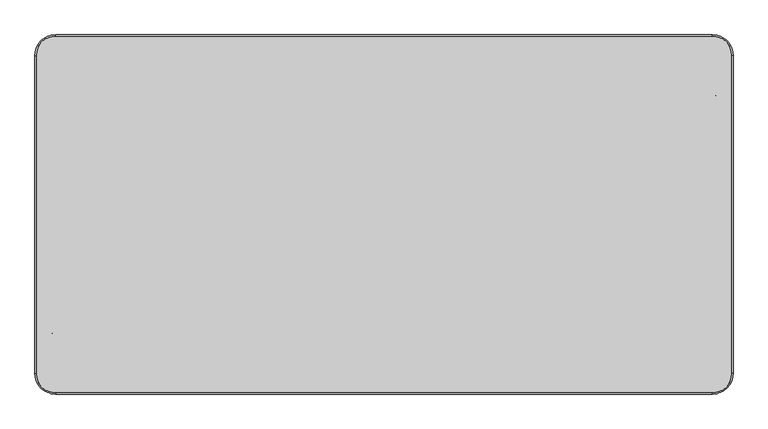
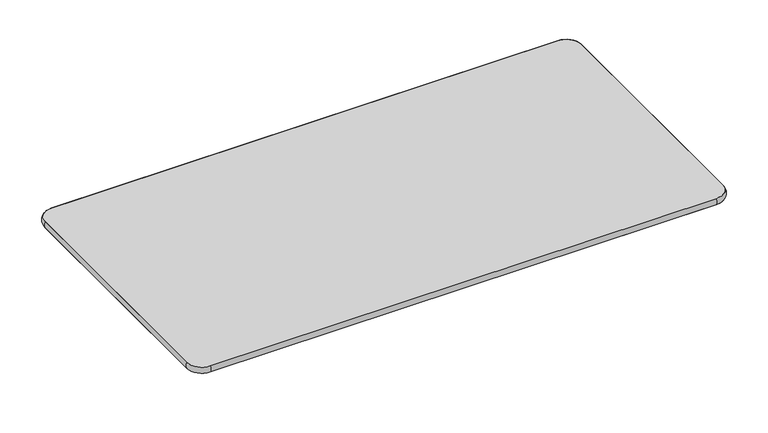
"""IFC4 building model written with IfcOpenShell, lengths in millimetres: furniture geometry, Mesa para refeitório : Mesa para refeitório 150x77cm cód 70474.6."""

import ifcopenshell
import ifcopenshell.guid

model = None  # the IFC model being written
_history = None  # IfcOwnerHistory: only IFC2X3 demands one
_inside = {}  # id of a spatial element -> (the spatial element, [elements in it])
_under = {}  # id of a project, library or spatial element -> (it, [spatial elements below it])
_declared = {}  # id of a project -> (the project, [libraries it declares])
_typed = {}  # id of a type object -> (the type object, [elements of that type])
_made_of = {}  # id of a material, layer set ... -> (it, [elements and type objects made of it])


def new_model(schema):
    """Start an empty IFC model of exactly this schema.

    Asked for "IFC4X3", IfcOpenShell would pick the latest addendum, in which some entities
    have other attributes; the version numbers below select the first issue.
    IFC2X3 requires an IfcOwnerHistory on every rooted entity: one is made here for all.
    """
    global model, _history
    if schema == "IFC4X3":
        model = ifcopenshell.file(schema_version=(4, 3, 0, 0))
    else:
        model = ifcopenshell.file(schema=schema)
    _inside.clear()
    _under.clear()
    _declared.clear()
    _typed.clear()
    _made_of.clear()
    _history = None
    if model.schema == "IFC2X3":
        org = make("IfcOrganization", Name="unknown")
        user = make(
            "IfcPersonAndOrganization",
            ThePerson=make("IfcPerson", FamilyName="unknown"),
            TheOrganization=org,
        )
        app = make(
            "IfcApplication",
            ApplicationDeveloper=org,
            Version="unknown",
            ApplicationFullName="unknown",
            ApplicationIdentifier="unknown",
        )
        _history = make(
            "IfcOwnerHistory",
            OwningUser=user,
            OwningApplication=app,
            ChangeAction="ADDED",
            CreationDate=0,
        )
    return model


def make(cls, **values):
    """One entity of the class cls with the attributes given. An attribute that is None is left unset."""
    return model.create_entity(
        cls, **{name: value for name, value in values.items() if value is not None}
    )


def rooted(cls, **values):
    """An entity with a GlobalId (a new one), such as an element, a storey or a relation."""
    return make(cls, GlobalId=ifcopenshell.guid.new(), OwnerHistory=_history, **values)


def si_unit(unit_type, name, prefix=None):
    """IfcSIUnit, for example si_unit("LENGTHUNIT", "METRE", prefix="MILLI")."""
    return make("IfcSIUnit", UnitType=unit_type, Prefix=prefix, Name=name)


def assignment(units):
    """IfcUnitAssignment: the units of a project."""
    return None if units is None else make("IfcUnitAssignment", Units=units)


def point(xyz):
    """IfcCartesianPoint."""
    return None if xyz is None else make("IfcCartesianPoint", Coordinates=xyz)


def direction(xyz):
    """IfcDirection."""
    return None if xyz is None else make("IfcDirection", DirectionRatios=xyz)


def frame(location, z_axis=None, x_axis=None):
    """IfcAxis2Placement3D, a coordinate frame: its origin and axes. An axis left out is left unset."""
    return make(
        "IfcAxis2Placement3D",
        Location=point(location),
        Axis=direction(z_axis),
        RefDirection=direction(x_axis),
    )


def frame_2d(location, x_axis=None):
    """IfcAxis2Placement2D, a coordinate frame in the plane: its origin and x axis."""
    return make(
        "IfcAxis2Placement2D", Location=point(location), RefDirection=direction(x_axis)
    )


def origin():
    """The frame at (0, 0, 0) with its axes left unset."""
    return frame((0.0, 0.0, 0.0))


def place(relative_to, where):
    """IfcLocalPlacement: puts the frame where relative to a parent placement (None: the world)."""
    return make(
        "IfcLocalPlacement", PlacementRelTo=relative_to, RelativePlacement=where
    )


def context(
    kind, dimensions, precision=None, world=None, true_north=None, identifier=None
):
    """IfcGeometricRepresentationContext, for example the 3D "Model" context."""
    return make(
        "IfcGeometricRepresentationContext",
        ContextIdentifier=identifier,
        ContextType=kind,
        CoordinateSpaceDimension=dimensions,
        Precision=precision,
        WorldCoordinateSystem=world,
        TrueNorth=true_north,
    )


def project(units=None, contexts=None):
    """IfcProject with its units and contexts."""
    return rooted(
        "IfcProject",
        Name="project",
        RepresentationContexts=contexts,
        UnitsInContext=assignment(units),
    )


def spatial(cls, under=None, at=None, **own):
    """A site, building, storey or space (cls), placed at a placement, below another one or the project."""
    s = rooted(cls, ObjectPlacement=at, **own)
    if under is not None:
        _under.setdefault(under.id(), (under, []))[1].append(s)
    return s


def polyline(points):
    """IfcPolyline through the points."""
    return make("IfcPolyline", Points=[point(p) for p in points])


def circle_curve(where, radius):
    """IfcCircle in the frame where."""
    return make("IfcCircle", Position=where, Radius=radius)


def ellipse_curve(where, semi_axis1, semi_axis2):
    """IfcEllipse in the frame where."""
    return make(
        "IfcEllipse", Position=where, SemiAxis1=semi_axis1, SemiAxis2=semi_axis2
    )


def trimmed(basis, trim1, trim2, sense, master):
    """IfcTrimmedCurve: the piece of a basis curve between two trims."""
    return make(
        "IfcTrimmedCurve",
        BasisCurve=basis,
        Trim1=trim1,
        Trim2=trim2,
        SenseAgreement=sense,
        MasterRepresentation=master,
    )


def segment(curve, same_sense, transition):
    """IfcCompositeCurveSegment."""
    return make(
        "IfcCompositeCurveSegment",
        Transition=transition,
        SameSense=same_sense,
        ParentCurve=curve,
    )


def composite_curve(segments, self_intersect=None):
    """IfcCompositeCurve: segments joined end to end."""
    return make("IfcCompositeCurve", Segments=segments, SelfIntersect=self_intersect)


def outline(outer, holes=None, kind="AREA"):
    """IfcArbitraryClosedProfileDef: a profile drawn as a closed curve; with holes, ...WithVoids."""
    if holes is None:
        return make("IfcArbitraryClosedProfileDef", ProfileType=kind, OuterCurve=outer)
    return make(
        "IfcArbitraryProfileDefWithVoids",
        ProfileType=kind,
        OuterCurve=outer,
        InnerCurves=holes,
    )


def extrude(swept, where, along, depth):
    """IfcExtrudedAreaSolid: the profile swept, set in the frame where, extruded along a direction by depth."""
    return make(
        "IfcExtrudedAreaSolid",
        SweptArea=swept,
        Position=where,
        ExtrudedDirection=direction(along),
        Depth=depth,
    )


def shape(context_of_items, identifier, shape_type, items):
    """IfcShapeRepresentation: the items that make up one representation, for example the "Body"."""
    return make(
        "IfcShapeRepresentation",
        ContextOfItems=context_of_items,
        RepresentationIdentifier=identifier,
        RepresentationType=shape_type,
        Items=items,
    )


def source(mapping_origin, context_of_items, identifier, shape_type, items):
    """IfcRepresentationMap: a shape defined once, which mapped items show again and again."""
    return make(
        "IfcRepresentationMap",
        MappingOrigin=mapping_origin,
        MappedRepresentation=shape(context_of_items, identifier, shape_type, items),
    )


def transform(
    local_origin,
    x_axis=None,
    y_axis=None,
    z_axis=None,
    scale=None,
    scale2=None,
    scale3=None,
    uniform=True,
):
    """IfcCartesianTransformationOperator3D, or its non-uniform kind. x_axis, y_axis, z_axis: its Axis1, 2, 3."""
    if uniform:
        return make(
            "IfcCartesianTransformationOperator3D",
            Axis1=direction(x_axis),
            Axis2=direction(y_axis),
            LocalOrigin=point(local_origin),
            Scale=scale,
            Axis3=direction(z_axis),
        )
    return make(
        "IfcCartesianTransformationOperator3DnonUniform",
        Axis1=direction(x_axis),
        Axis2=direction(y_axis),
        LocalOrigin=point(local_origin),
        Scale=scale,
        Axis3=direction(z_axis),
        Scale2=scale2,
        Scale3=scale3,
    )


def mapped(mapping_source, mapping_target):
    """IfcMappedItem: shows the shape of a source again, moved by a transform."""
    return make(
        "IfcMappedItem", MappingSource=mapping_source, MappingTarget=mapping_target
    )


def made_of(thing, what):
    """Note that an element or type object is made of a material, layer set ...; save() writes the relation."""
    if what is not None:
        _made_of.setdefault(what.id(), (what, []))[1].append(thing)
    return thing


def element(
    cls,
    number,
    at=None,
    inside=None,
    cuts=None,
    type_object=None,
    material=None,
    context=None,
    identifier="Body",
    shape_type=None,
    held_by="IfcProductDefinitionShape",
    body=None,
    shapes=None,
    **own,
):
    """One element of the class cls, such as IfcWall. Its Tag is "e" and its number.

    at: its placement. inside: the storey or other place that contains it. cuts: it is an
    opening in that element (IfcRelVoidsElement). A single representation is given by context,
    identifier, shape_type and body (its items); several are given by shapes. held_by: the class
    of the entity that holds the representations. save() writes the other relations.
    """
    e = rooted(cls, Tag="e%d" % number, ObjectPlacement=at, **own)
    if body is not None:
        shapes = [shape(context, identifier, shape_type, body)]
    if shapes is not None:
        e.Representation = make(held_by, Representations=shapes)
    if inside is not None:
        _inside.setdefault(inside.id(), (inside, []))[1].append(e)
    if cuts is not None:
        rooted(
            "IfcRelVoidsElement", RelatingBuildingElement=cuts, RelatedOpeningElement=e
        )
    if type_object is not None:
        _typed.setdefault(type_object.id(), (type_object, []))[1].append(e)
    return made_of(e, material)


def aggregate(whole, parts):
    """IfcRelAggregates: a whole, such as a stair, and the parts it consists of."""
    return rooted("IfcRelAggregates", RelatingObject=whole, RelatedObjects=parts)


def save(model, path):
    """Write the relations noted so far, then the file.

    IfcRelAggregates (storeys below a building ...), IfcRelContainedInSpatialStructure (elements
    in a storey), IfcRelDefinesByType, IfcRelAssociatesMaterial and IfcRelDeclares: one each for
    every whole, place, type object, material and project.
    """
    for whole, parts in _under.values():
        aggregate(whole, parts)
    for where, things in _inside.values():
        rooted(
            "IfcRelContainedInSpatialStructure",
            RelatedElements=things,
            RelatingStructure=where,
        )
    for kind, things in _typed.values():
        rooted("IfcRelDefinesByType", RelatedObjects=things, RelatingType=kind)
    for what, things in _made_of.values():
        rooted("IfcRelAssociatesMaterial", RelatedObjects=things, RelatingMaterial=what)
    for by, libraries in _declared.values():
        rooted("IfcRelDeclares", RelatingContext=by, RelatedDefinitions=libraries)
    model.write(path)


def plane_surface(at):
    """IfcPlane: the flat surface through the origin of the frame at, square to its z axis."""
    return make("IfcPlane", Position=at)


def cylinder_surface(at, radius):
    """IfcCylindricalSurface: all points at the distance radius from the z axis of the frame at."""
    return make("IfcCylindricalSurface", Position=at, Radius=radius)


def revolved_surface(curve, axis_point, axis_direction):
    """IfcSurfaceOfRevolution: the curve turned about the line through axis_point along axis_direction."""
    return make(
        "IfcSurfaceOfRevolution",
        SweptCurve=make("IfcArbitraryOpenProfileDef", ProfileType="CURVE", Curve=curve),
        AxisPosition=make("IfcAxis1Placement", Location=point(axis_point), Axis=direction(axis_direction)),
    )


def advanced_brep(points, edges, surfaces, faces):
    """IfcAdvancedBrep: a solid bounded by faces that lie on surfaces and meet in shared edges.

    An edge is (start, end): straight between two places in points (the first is 0);
    or (start, end, curve); or (start, end, curve, False) where it runs against its curve.
    A face is (place in surfaces, loops), or (place, loops, False) where it looks against
    its surface's normal. A loop lists edges by number (the first is 1), with a minus sign
    where the edge is run from its end to its start. The first loop is the outer one.
    """
    corners = [point(p) for p in points]
    vertices = [make("IfcVertexPoint", VertexGeometry=c) for c in corners]
    made = []
    for start, end, *more in edges:
        made.append(
            make(
                "IfcEdgeCurve",
                EdgeStart=vertices[start],
                EdgeEnd=vertices[end],
                EdgeGeometry=more[0] if more else make("IfcPolyline", Points=[corners[start], corners[end]]),
                SameSense=more[1] if len(more) > 1 else True,
            )
        )
    hull = []
    for where, loops, *sense in faces:
        bounds = []
        for j, loop in enumerate(loops):
            ring = [make("IfcOrientedEdge", EdgeElement=made[abs(k) - 1], Orientation=k > 0) for k in loop]
            bounds.append(
                make(
                    "IfcFaceOuterBound" if j == 0 else "IfcFaceBound",
                    Bound=make("IfcEdgeLoop", EdgeList=ring),
                    Orientation=True,
                )
            )
        hull.append(make("IfcAdvancedFace", Bounds=bounds, FaceSurface=surfaces[where], SameSense=sense[0] if sense else True))
    return make("IfcAdvancedBrep", Outer=make("IfcClosedShell", CfsFaces=hull))


def furniture_5e96de39(model_context):
    return source(origin(), model_context, "Body", "SolidModel", [
        extrude(outline(composite_curve([segment(polyline([(-655.6618953, -127.5875081), (-717.0206397, -341.5708799), (-729.5170418, -337.9875943)]), True, "CONTINUOUS"), segment(trimmed(circle_curve(frame_2d((-728.138855, -333.1812858)), 5.0), [point((-729.5170418, -337.9875943))], [point((-732.9451635, -331.803099))], False, "CARTESIAN"), True, "CONTINUOUS"), segment(polyline([(-732.9451635, -331.803099), (-674.3872851, -127.5875081), (-655.6618953, -127.5875081)]), True, "CONTINUOUS")], self_intersect=False)), frame((0.0, 0.0, 740.0), z_axis=(0.0, 0.0, 1.0), x_axis=(1.0, 0.0, 0.0)), (0.0, 0.0, 1.0), 2.0),
        extrude(outline(composite_curve([segment(polyline([(655.6618953, 127.5875081), (717.0206397, 341.5708799), (729.5170418, 337.9875943)]), True, "CONTINUOUS"), segment(trimmed(circle_curve(frame_2d((728.138855, 333.1812858)), 5.0), [point((729.5170418, 337.9875943))], [point((732.9451635, 331.803099))], False, "CARTESIAN"), True, "CONTINUOUS"), segment(polyline([(732.9451635, 331.803099), (674.3872851, 127.5875081), (655.6618953, 127.5875081)]), True, "CONTINUOUS")], self_intersect=False)), frame((0.0, 0.0, 740.0), z_axis=(0.0, 0.0, 1.0), x_axis=(1.0, 0.0, 0.0)), (0.0, 0.0, 1.0), 2.0),
        extrude(outline(composite_curve([segment(polyline([(655.6618953, -127.5875081), (674.3872851, -127.5875081), (732.9451635, -331.803099)]), True, "CONTINUOUS"), segment(trimmed(circle_curve(frame_2d((728.138855, -333.1812858)), 5.0), [point((732.9451635, -331.803099))], [point((729.5170418, -337.9875943))], False, "CARTESIAN"), True, "CONTINUOUS"), segment(polyline([(729.5170418, -337.9875943), (717.0206397, -341.5708799), (655.6618953, -127.5875081)]), True, "CONTINUOUS")], self_intersect=False)), frame((0.0, 0.0, 740.0), z_axis=(0.0, 0.0, 1.0), x_axis=(1.0, 0.0, 0.0)), (0.0, 0.0, 1.0), 2.0),
        extrude(outline(composite_curve([segment(polyline([(655.6618953, -42.5875081), (673.7270534, -42.5875081), (673.7270534, -140.8530223)]), True, "CONTINUOUS"), segment(trimmed(circle_curve(frame_2d((668.7270534, -140.8530223)), 5.0), [point((673.7270534, -140.8530223))], [point((668.7270534, -145.8530223))], False, "CARTESIAN"), True, "CONTINUOUS"), segment(polyline([(668.7270534, -145.8530223), (655.6618953, -145.8530223), (655.6618953, -42.5875081)]), True, "CONTINUOUS")], self_intersect=False)), frame((0.0, 0.0, 740.0), z_axis=(0.0, 0.0, 1.0), x_axis=(1.0, 0.0, 0.0)), (0.0, 0.0, 1.0), 2.0),
        extrude(outline(polyline([(-649.6955742, 28.681337), (-649.6955742, -28.681337), (-651.5529394, -28.1300623), (-651.5529394, 28.1300623), (-649.6955742, 28.681337)])), frame((0.0, 0.0, 682.0), z_axis=(0.0, 0.0, 1.0), x_axis=(1.0, 0.0, 0.0)), (0.0, 0.0, 1.0), 60.0),
        extrude(outline(composite_curve([segment(polyline([(-60.1181829, 0.0), (0.0, 0.0), (0.0, -229.4943371)]), True, "CONTINUOUS"), segment(trimmed(circle_curve(frame_2d((-8.0489664, -229.4943371)), 8.0489664), [point((0.0, -229.4943371))], [point((-15.3438074, -232.8959773))], False, "CARTESIAN"), True, "CONTINUOUS"), segment(polyline([(-15.3438074, -232.8959773), (-60.1181829, 0.0)]), True, "CONTINUOUS")], self_intersect=False)), frame((-649.6955742, -28.681337, 742.0), z_axis=(-0.961261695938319, 0.2756373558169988, 0.0), x_axis=(0.0, 0.0, 1.0)), (0.0, 0.0, 1.0), 1.932216),
        extrude(outline(composite_curve([segment(polyline([(60.1181829, 0.0), (15.3438074, -232.8959773)]), True, "CONTINUOUS"), segment(trimmed(circle_curve(frame_2d((8.0489664, -229.4943371)), 8.0489664), [point((15.3438074, -232.8959773))], [point((0.0, -229.4943371))], False, "CARTESIAN"), True, "CONTINUOUS"), segment(polyline([(0.0, -229.4943371), (0.0, 0.0), (60.1181829, 0.0)]), True, "CONTINUOUS")], self_intersect=False)), frame((651.5162894, 28.1300623, 742.0), z_axis=(-0.961261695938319, 0.2756373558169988, 0.0), x_axis=(0.0, 0.0, -1.0)), (0.0, 0.0, 1.0), 2.0),
        extrude(outline(polyline([(649.593766, 28.681337), (651.5162894, 28.1300623), (651.5162894, -28.1300623), (649.593766, -28.681337), (649.593766, 28.681337)])), frame((0.0, 0.0, 682.0), z_axis=(0.0, 0.0, 1.0), x_axis=(1.0, 0.0, 0.0)), (0.0, 0.0, 1.0), 60.0),
        extrude(outline(composite_curve([segment(polyline([(-2.0, -20.0), (-2.0, -351.247878), (-15.0, -351.247878)]), True, "CONTINUOUS"), segment(trimmed(circle_curve(frame_2d((-15.0, -346.247878)), 5.0), [point((-15.0, -351.247878))], [point((-20.0, -346.247878))], False, "CARTESIAN"), True, "CONTINUOUS"), segment(polyline([(-20.0, -346.247878), (-20.0, -20.0), (-2.0, -20.0)]), True, "CONTINUOUS")], self_intersect=False)), frame((0.0, 0.0, 740.0), z_axis=(0.0, 0.0, 1.0), x_axis=(1.0, 0.0, 0.0)), (0.0, 0.0, 1.0), 2.0),
        extrude(outline(composite_curve([segment(polyline([(-20.0, 683.2373612), (-351.247878, 726.6561926)]), True, "CONTINUOUS"), segment(trimmed(circle_curve(frame_2d((-347.8462378, 733.9510336)), 8.0489664), [point((-351.247878, 726.6561926))], [point((-347.8462378, 742.0))], False, "CARTESIAN"), True, "CONTINUOUS"), segment(polyline([(-347.8462378, 742.0), (-20.0, 742.0), (-20.0, 683.2373612)]), True, "CONTINUOUS")], self_intersect=False)), frame((-2.0, 0.0, 0.0), z_axis=(1.0, 0.0, 0.0), x_axis=(0.0, 1.0, 0.0)), (0.0, 0.0, 1.0), 2.0),
        extrude(outline(composite_curve([segment(polyline([(0.0, 0.0), (237.1608757, 0.0)]), True, "CONTINUOUS"), segment(trimmed(circle_curve(frame_2d((235.1976245, -7.8058636)), 8.0489664), [point((237.1608757, 0.0))], [point((236.7172151, -15.7100843))], False, "CARTESIAN"), True, "CONTINUOUS"), segment(polyline([(236.7172151, -15.7100843), (11.3499079, -59.0370689), (0.0, 0.0)]), True, "CONTINUOUS")], self_intersect=False)), frame((649.593766, -28.681337, 681.8818171), z_axis=(0.9612616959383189, 0.27563735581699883, 0.0), x_axis=(0.2706805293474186, -0.943975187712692, 0.1887932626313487)), (0.0, 0.0, 1.0), 2.0),
        extrude(outline(composite_curve([segment(polyline([(-2.0, 20.0), (-20.0, 20.0), (-20.0, 346.247878)]), True, "CONTINUOUS"), segment(trimmed(circle_curve(frame_2d((-15.0, 346.247878)), 5.0), [point((-20.0, 346.247878))], [point((-15.0, 351.247878))], False, "CARTESIAN"), True, "CONTINUOUS"), segment(polyline([(-15.0, 351.247878), (-2.0, 351.247878), (-2.0, 20.0)]), True, "CONTINUOUS")], self_intersect=False)), frame((0.0, 0.0, 740.0), z_axis=(0.0, 0.0, 1.0), x_axis=(1.0, 0.0, 0.0)), (0.0, 0.0, 1.0), 2.0),
        extrude(outline(composite_curve([segment(polyline([(20.0, 683.2373612), (20.0, 742.0), (347.8462378, 742.0)]), True, "CONTINUOUS"), segment(trimmed(circle_curve(frame_2d((347.8462378, 733.9510336)), 8.0489664), [point((347.8462378, 742.0))], [point((351.247878, 726.6561926))], False, "CARTESIAN"), True, "CONTINUOUS"), segment(polyline([(351.247878, 726.6561926), (20.0, 683.2373612)]), True, "CONTINUOUS")], self_intersect=False)), frame((-2.0, 0.0, 0.0), z_axis=(1.0, 0.0, 0.0), x_axis=(0.0, 1.0, 0.0)), (0.0, 0.0, 1.0), 2.0),
        extrude(outline(polyline([(650.0651581, -20.0), (-650.0651581, -20.0), (-650.0651581, 20.0), (650.0651581, 20.0), (650.0651581, -20.0)])), frame((0.0, 0.0, 682.0), z_axis=(0.0, 0.0, 1.0), x_axis=(1.0, 0.0, 0.0)), (0.0, 0.0, 1.0), 60.0),
        advanced_brep(
        [(750.0, -343.1259063, 760.0), (708.1259063, -385.0, 760.0), (708.1259063, -385.0, 742.0), (750.0, -343.1259063, 742.0), (750.0, 343.1259063, 742.0), (750.0, 343.1259063, 760.0), (708.1259063, 385.0, 760.0), (708.1259063, 385.0, 742.0), (-708.2277145, 385.0, 742.0), (-708.2277145, 385.0, 760.0), (-750.0, 343.2277145, 760.0), (-750.0, 343.2277145, 742.0), (-750.0, -343.2277145, 742.0), (-750.0, -343.2277145, 760.0), (-708.2277145, -385.0, 760.0), (-708.2277145, -385.0, 742.0)],
        [
            (0, 1, circle_curve(frame((708.1259063, -343.1259063, 760.0), z_axis=(0.0, 0.0, -1.0), x_axis=(0.0, -1.0, 0.0)), 41.8740937)),
            (1, 2, circle_curve(frame((708.1259063, -371.6032084, 751.0), z_axis=(1.0, 0.0, 0.0), x_axis=(0.0, 1.0, 0.0)), 16.1392077)),
            (2, 3, circle_curve(frame((708.1259063, -343.1259063, 742.0), z_axis=(0.0, 0.0, 1.0), x_axis=(0.0, -1.0, 0.0)), 41.8740937)),
            (3, 0, circle_curve(frame((736.6032084, -343.1259063, 751.0), z_axis=(0.0, -1.0, 0.0), x_axis=(-1.0, 0.0, 0.0)), 16.1392077)),
            (2, 1),
            (0, 3),
            (3, 4),
            (4, 5, circle_curve(frame((736.6032084, 343.1259063, 751.0), z_axis=(0.0, -1.0, 0.0), x_axis=(-1.0, 0.0, 0.0)), 16.1392077)),
            (5, 0),
            (5, 4),
            (6, 5, circle_curve(frame((708.1259063, 343.1259063, 760.0), z_axis=(0.0, 0.0, -1.0), x_axis=(1.0, 0.0, 0.0)), 41.8740937)),
            (4, 7, circle_curve(frame((708.1259063, 343.1259063, 742.0), z_axis=(0.0, 0.0, 1.0), x_axis=(1.0, 0.0, 0.0)), 41.8740937)),
            (7, 6, circle_curve(frame((708.1259063, 371.6032084, 751.0), z_axis=(1.0, 0.0, 0.0), x_axis=(0.0, -1.0, 0.0)), 16.1392077)),
            (6, 7),
            (7, 8),
            (8, 9, circle_curve(frame((-708.2277145, 371.6032084, 751.0), z_axis=(1.0, 0.0, 0.0), x_axis=(0.0, -1.0, 0.0)), 16.1392077)),
            (9, 6),
            (9, 8),
            (10, 9, circle_curve(frame((-708.2277145, 343.2277145, 760.0), z_axis=(0.0, 0.0, -1.0), x_axis=(0.0, 1.0, 0.0)), 41.7722855)),
            (8, 11, circle_curve(frame((-708.2277145, 343.2277145, 742.0), z_axis=(0.0, 0.0, 1.0), x_axis=(0.0, 1.0, 0.0)), 41.7722855)),
            (11, 10, circle_curve(frame((-736.6032084, 343.2277145, 751.0), z_axis=(0.0, 1.0, 0.0), x_axis=(1.0, 0.0, 0.0)), 16.1392077)),
            (10, 11),
            (11, 12),
            (12, 13, circle_curve(frame((-736.6032084, -343.2277145, 751.0), z_axis=(0.0, 1.0, 0.0), x_axis=(1.0, 0.0, 0.0)), 16.1392077)),
            (13, 10),
            (13, 12),
            (14, 13, circle_curve(frame((-708.2277145, -343.2277145, 760.0), z_axis=(0.0, 0.0, -1.0), x_axis=(-1.0, 0.0, 0.0)), 41.7722855)),
            (12, 15, circle_curve(frame((-708.2277145, -343.2277145, 742.0), z_axis=(0.0, 0.0, 1.0), x_axis=(-1.0, 0.0, 0.0)), 41.7722855)),
            (15, 14, circle_curve(frame((-708.2277145, -371.6032084, 751.0), z_axis=(-1.0, 0.0, 0.0), x_axis=(0.0, 1.0, 0.0)), 16.1392077)),
            (14, 15),
            (15, 2),
            (1, 14),
        ],
        [
            revolved_surface(trimmed(ellipse_curve(frame((708.1259063, -371.6032084, 751.0), z_axis=(-1.0, 0.0, 0.0), x_axis=(0.0, 1.0, 0.0)), 16.1392077, 16.1392077), [point((708.1259063, -385.0, 742.0))], [point((708.1259063, -385.0, 760.0))], True, "CARTESIAN"), (708.1259063, -343.1259063, 760.0), (0.0, 0.0, 1.0)),
            revolved_surface(polyline([(708.1259063, -385.0, 760.0), (708.1259063, -385.0, 742.0)]), (708.1259063, -343.1259063, 760.0), (0.0, 0.0, 1.0)),
            cylinder_surface(frame((736.6032084, -343.1259063, 751.0), z_axis=(0.0, -1.0, 0.0), x_axis=(-1.0, 0.0, 0.0)), 16.1392077),
            plane_surface(frame((750.0, -343.1259063, 760.0), z_axis=(-1.0, 0.0, 0.0), x_axis=(0.0, 1.0, 0.0))),
            revolved_surface(trimmed(ellipse_curve(frame((736.6032084, 343.1259063, 751.0), z_axis=(0.0, -1.0, 0.0), x_axis=(-1.0, 0.0, 0.0)), 16.1392077, 16.1392077), [point((750.0, 343.1259063, 742.0))], [point((750.0, 343.1259063, 760.0))], True, "CARTESIAN"), (708.1259063, 343.1259063, 760.0), (0.0, 0.0, 1.0)),
            revolved_surface(polyline([(750.0, 343.1259063, 760.0), (750.0, 343.1259063, 742.0)]), (708.1259063, 343.1259063, 760.0), (0.0, 0.0, 1.0)),
            cylinder_surface(frame((708.1259063, 371.6032084, 751.0), z_axis=(1.0, 0.0, 0.0), x_axis=(0.0, -1.0, 0.0)), 16.1392077),
            plane_surface(frame((708.1259063, 385.0, 760.0), z_axis=(0.0, -1.0, 0.0), x_axis=(-1.0, 0.0, 0.0))),
            revolved_surface(trimmed(ellipse_curve(frame((-708.2277145, 371.6032084, 751.0), z_axis=(1.0, 0.0, 0.0), x_axis=(0.0, -1.0, 0.0)), 16.1392077, 16.1392077), [point((-708.2277145, 385.0, 742.0))], [point((-708.2277145, 385.0, 760.0))], True, "CARTESIAN"), (-708.2277145, 343.2277145, 760.0), (0.0, 0.0, 1.0)),
            revolved_surface(polyline([(-708.2277145, 385.0, 760.0), (-708.2277145, 385.0, 742.0)]), (-708.2277145, 343.2277145, 760.0), (0.0, 0.0, 1.0)),
            cylinder_surface(frame((-736.6032084, 343.2277145, 751.0), z_axis=(0.0, 1.0, 0.0), x_axis=(1.0, 0.0, 0.0)), 16.1392077),
            plane_surface(frame((-750.0, 343.2277145, 760.0), z_axis=(1.0, 0.0, 0.0), x_axis=(0.0, -1.0, 0.0))),
            revolved_surface(trimmed(ellipse_curve(frame((-736.6032084, -343.2277145, 751.0), z_axis=(0.0, 1.0, 0.0), x_axis=(1.0, 0.0, 0.0)), 16.1392077, 16.1392077), [point((-750.0, -343.2277145, 742.0))], [point((-750.0, -343.2277145, 760.0))], True, "CARTESIAN"), (-708.2277145, -343.2277145, 760.0), (0.0, 0.0, 1.0)),
            revolved_surface(polyline([(-750.0, -343.2277145, 760.0), (-750.0, -343.2277145, 742.0)]), (-708.2277145, -343.2277145, 760.0), (0.0, 0.0, 1.0)),
            cylinder_surface(frame((-708.2277145, -371.6032084, 751.0), z_axis=(-1.0, 0.0, 0.0), x_axis=(0.0, 1.0, 0.0)), 16.1392077),
            plane_surface(frame((-708.2277145, -385.0, 760.0), z_axis=(0.0, 1.0, 0.0), x_axis=(1.0, 0.0, 0.0))),
        ],
        [
            (0, [[1, 2, 3, 4]]),
            (1, [[-3, 5, -1, 6]]),
            (2, [[-4, 7, 8, 9]]),
            (3, [[-6, -9, 10, -7]]),
            (4, [[11, -8, 12, 13]]),
            (5, [[-12, -10, -11, 14]]),
            (6, [[-13, 15, 16, 17]]),
            (7, [[-14, -17, 18, -15]]),
            (8, [[19, -16, 20, 21]]),
            (9, [[-20, -18, -19, 22]]),
            (10, [[-21, 23, 24, 25]]),
            (11, [[-22, -25, 26, -23]]),
            (12, [[27, -24, 28, 29]]),
            (13, [[-28, -26, -27, 30]]),
            (14, [[-29, 31, -2, 32]]),
            (15, [[-30, -32, -5, -31]]),
        ],
    ),
        extrude(outline(composite_curve([segment(trimmed(circle_curve(frame_2d((708.1259063, 343.1259063)), 41.8740937), [point((708.1259063, 385.0))], [point((750.0, 343.1259063))], False, "CARTESIAN"), True, "CONTINUOUS"), segment(polyline([(750.0, 343.1259063), (750.0, -343.1259063)]), True, "CONTINUOUS"), segment(trimmed(circle_curve(frame_2d((708.1259063, -343.1259063)), 41.8740937), [point((750.0, -343.1259063))], [point((708.1259063, -385.0))], False, "CARTESIAN"), True, "CONTINUOUS"), segment(polyline([(708.1259063, -385.0), (-708.2277145, -385.0)]), True, "CONTINUOUS"), segment(trimmed(circle_curve(frame_2d((-708.2277145, -343.2277145)), 41.7722855), [point((-708.2277145, -385.0))], [point((-750.0, -343.2277145))], False, "CARTESIAN"), True, "CONTINUOUS"), segment(polyline([(-750.0, -343.2277145), (-750.0, 343.2277145)]), True, "CONTINUOUS"), segment(trimmed(circle_curve(frame_2d((-708.2277145, 343.2277145)), 41.7722855), [point((-750.0, 343.2277145))], [point((-708.2277145, 385.0))], False, "CARTESIAN"), True, "CONTINUOUS"), segment(polyline([(-708.2277145, 385.0), (708.1259063, 385.0)]), True, "CONTINUOUS")], self_intersect=False)), frame((0.0, 0.0, 742.0), z_axis=(0.0, 0.0, 1.0), x_axis=(1.0, 0.0, 0.0)), (0.0, 0.0, 1.0), 18.0),
    ])


if __name__ == "__main__":
    model = new_model("IFC4")
    model_context = context("Model", 3, world=origin())
    ifc_project = project(units=[si_unit("LENGTHUNIT", "METRE", prefix="MILLI")], contexts=[model_context])
    site = spatial("IfcSite", under=ifc_project)
    building = spatial("IfcBuilding", under=site)
    placement = place(None, origin())
    furniture_shape = furniture_5e96de39(model_context)
    element("IfcFurniture", 1, ObjectType="Mesa para refeitório : Mesa para refeitório 150x77cm cód 70474.6", at=placement, inside=building, context=model_context, shape_type="MappedRepresentation", body=[
        mapped(furniture_shape, transform((0.0, 0.0, 0.0), x_axis=(1.0, 0.0, 0.0), y_axis=(0.0, 1.0, 0.0), z_axis=(0.0, 0.0, 1.0))),
    ])
    save(model, "model.ifc")
